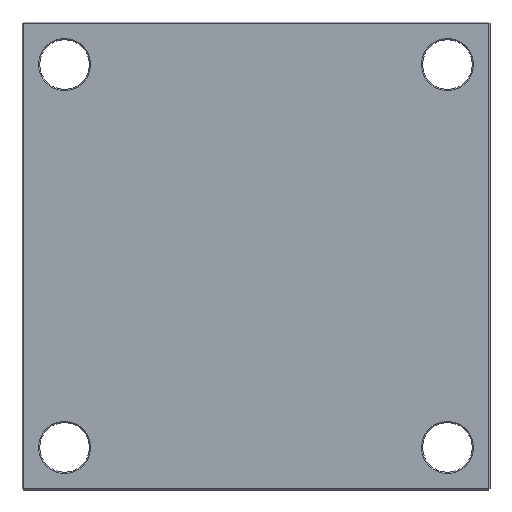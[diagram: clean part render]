
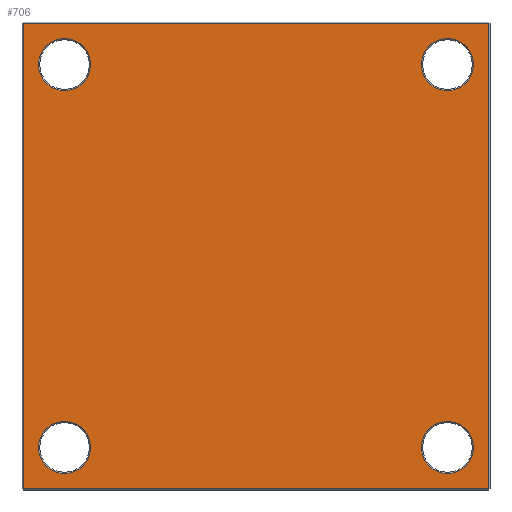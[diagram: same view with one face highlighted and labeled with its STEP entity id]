
A CAD part, front view. The second image highlights one B-rep face of the part: STEP entity #706.
In plain terms, the highlighted planar face has unit normal (0, -1, 0).
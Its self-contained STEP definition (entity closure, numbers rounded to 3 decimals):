
#17 = ORIENTED_EDGE ( 'NONE', *, *, #1601, .T. ) ;
#19 = ORIENTED_EDGE ( 'NONE', *, *, #1609, .T. ) ;
#28 = EDGE_CURVE ( 'NONE', #832, #121, #1839, .T. ) ;
#35 = VECTOR ( 'NONE', #1489, 1000. ) ;
#48 = VERTEX_POINT ( 'NONE', #1393 ) ;
#57 = CARTESIAN_POINT ( 'NONE',  ( 162., 0., 184. ) ) ;
#81 = CARTESIAN_POINT ( 'NONE',  ( -162., 0., 140. ) ) ;
#121 = VERTEX_POINT ( 'NONE', #620 ) ;
#130 = ORIENTED_EDGE ( 'NONE', *, *, #1135, .T. ) ;
#150 = EDGE_LOOP ( 'NONE', ( #184, #177 ) ) ;
#152 = CIRCLE ( 'NONE', #1070, 22. ) ;
#159 = ORIENTED_EDGE ( 'NONE', *, *, #1624, .T. ) ;
#161 = VERTEX_POINT ( 'NONE', #308 ) ;
#177 = ORIENTED_EDGE ( 'NONE', *, *, #1471, .T. ) ;
#184 = ORIENTED_EDGE ( 'NONE', *, *, #28, .T. ) ;
#192 = CARTESIAN_POINT ( 'NONE',  ( 162., 0., -162. ) ) ;
#197 = VECTOR ( 'NONE', #490, 1000. ) ;
#209 = ORIENTED_EDGE ( 'NONE', *, *, #645, .T. ) ;
#229 = AXIS2_PLACEMENT_3D ( 'NONE', #1816, #1727, #1735 ) ;
#241 = DIRECTION ( 'NONE',  ( 0., 1., 0. ) ) ;
#259 = DIRECTION ( 'NONE',  ( 0., 0., 1. ) ) ;
#308 = CARTESIAN_POINT ( 'NONE',  ( 197., 0., 197. ) ) ;
#338 = VERTEX_POINT ( 'NONE', #728 ) ;
#341 = AXIS2_PLACEMENT_3D ( 'NONE', #1245, #1239, #1205 ) ;
#401 = FACE_BOUND ( 'NONE', #1478, .T. ) ;
#416 = AXIS2_PLACEMENT_3D ( 'NONE', #576, #577, #580 ) ;
#441 = CIRCLE ( 'NONE', #341, 22. ) ;
#488 = LINE ( 'NONE', #883, #897 ) ;
#490 = DIRECTION ( 'NONE',  ( 0., 0., 1. ) ) ;
#500 = CARTESIAN_POINT ( 'NONE',  ( 197., 0., 0. ) ) ;
#535 = LINE ( 'NONE', #1338, #35 ) ;
#569 = CIRCLE ( 'NONE', #766, 22. ) ;
#576 = CARTESIAN_POINT ( 'NONE',  ( 162., 0., -162. ) ) ;
#577 = DIRECTION ( 'NONE',  ( 0., 1., 0. ) ) ;
#580 = DIRECTION ( 'NONE',  ( 0., 0., 1. ) ) ;
#588 = VERTEX_POINT ( 'NONE', #1300 ) ;
#596 = CIRCLE ( 'NONE', #416, 22. ) ;
#620 = CARTESIAN_POINT ( 'NONE',  ( -162., 0., 184. ) ) ;
#645 = EDGE_CURVE ( 'NONE', #1050, #588, #152, .T. ) ;
#674 = CARTESIAN_POINT ( 'NONE',  ( 197., 0., -197. ) ) ;
#706 = ADVANCED_FACE ( 'NONE', ( #401, #1633, #2120, #1188, #2072 ), #1126, .F. ) ;
#719 = ORIENTED_EDGE ( 'NONE', *, *, #1424, .T. ) ;
#728 = CARTESIAN_POINT ( 'NONE',  ( 162., 0., -140. ) ) ;
#766 = AXIS2_PLACEMENT_3D ( 'NONE', #192, #241, #259 ) ;
#832 = VERTEX_POINT ( 'NONE', #81 ) ;
#863 = CARTESIAN_POINT ( 'NONE',  ( -162., 0., 162. ) ) ;
#879 = AXIS2_PLACEMENT_3D ( 'NONE', #1130, #1765, #1123 ) ;
#883 = CARTESIAN_POINT ( 'NONE',  ( 0., 0., -197. ) ) ;
#897 = VECTOR ( 'NONE', #1015, 1000. ) ;
#911 = VERTEX_POINT ( 'NONE', #2144 ) ;
#915 = EDGE_CURVE ( 'NONE', #1422, #338, #569, .T. ) ;
#921 = AXIS2_PLACEMENT_3D ( 'NONE', #2009, #2015, #2038 ) ;
#970 = CARTESIAN_POINT ( 'NONE',  ( -162., 0., -140. ) ) ;
#980 = CIRCLE ( 'NONE', #921, 22. ) ;
#1015 = DIRECTION ( 'NONE',  ( 1., 0., 0. ) ) ;
#1050 = VERTEX_POINT ( 'NONE', #57 ) ;
#1070 = AXIS2_PLACEMENT_3D ( 'NONE', #1747, #1756, #1764 ) ;
#1123 = DIRECTION ( 'NONE',  ( 0., 0., 1. ) ) ;
#1126 = PLANE ( 'NONE',  #879 ) ;
#1130 = CARTESIAN_POINT ( 'NONE',  ( 0., 0., 0. ) ) ;
#1135 = EDGE_CURVE ( 'NONE', #1550, #161, #1498, .T. ) ;
#1140 = EDGE_CURVE ( 'NONE', #338, #1422, #596, .T. ) ;
#1150 = CARTESIAN_POINT ( 'NONE',  ( -197., 0., 197. ) ) ;
#1169 = DIRECTION ( 'NONE',  ( -1., 0., 0. ) ) ;
#1184 = AXIS2_PLACEMENT_3D ( 'NONE', #863, #1704, #1680 ) ;
#1188 = FACE_BOUND ( 'NONE', #150, .T. ) ;
#1197 = DIRECTION ( 'NONE',  ( 0., 0., 1. ) ) ;
#1203 = DIRECTION ( 'NONE',  ( 0., 1., 0. ) ) ;
#1205 = DIRECTION ( 'NONE',  ( 0., 0., 1. ) ) ;
#1239 = DIRECTION ( 'NONE',  ( 0., 1., 0. ) ) ;
#1240 = VERTEX_POINT ( 'NONE', #1150 ) ;
#1245 = CARTESIAN_POINT ( 'NONE',  ( -162., 0., -162. ) ) ;
#1293 = EDGE_CURVE ( 'NONE', #588, #1050, #1576, .T. ) ;
#1300 = CARTESIAN_POINT ( 'NONE',  ( 162., 0., 140. ) ) ;
#1308 = EDGE_LOOP ( 'NONE', ( #1975, #209 ) ) ;
#1327 = CARTESIAN_POINT ( 'NONE',  ( -162., 0., 162. ) ) ;
#1338 = CARTESIAN_POINT ( 'NONE',  ( -197., 0., 0. ) ) ;
#1393 = CARTESIAN_POINT ( 'NONE',  ( -197., 0., -197. ) ) ;
#1404 = LINE ( 'NONE', #1414, #1827 ) ;
#1414 = CARTESIAN_POINT ( 'NONE',  ( 0., 0., 197. ) ) ;
#1422 = VERTEX_POINT ( 'NONE', #1899 ) ;
#1424 = EDGE_CURVE ( 'NONE', #911, #2055, #980, .T. ) ;
#1471 = EDGE_CURVE ( 'NONE', #121, #832, #2135, .T. ) ;
#1478 = EDGE_LOOP ( 'NONE', ( #719, #1536 ) ) ;
#1489 = DIRECTION ( 'NONE',  ( 0., 0., -1. ) ) ;
#1498 = LINE ( 'NONE', #500, #197 ) ;
#1536 = ORIENTED_EDGE ( 'NONE', *, *, #1939, .T. ) ;
#1550 = VERTEX_POINT ( 'NONE', #674 ) ;
#1576 = CIRCLE ( 'NONE', #229, 22. ) ;
#1601 = EDGE_CURVE ( 'NONE', #161, #1240, #1404, .T. ) ;
#1609 = EDGE_CURVE ( 'NONE', #1240, #48, #535, .T. ) ;
#1624 = EDGE_CURVE ( 'NONE', #48, #1550, #488, .T. ) ;
#1633 = FACE_BOUND ( 'NONE', #2030, .T. ) ;
#1680 = DIRECTION ( 'NONE',  ( 0., 0., 1. ) ) ;
#1704 = DIRECTION ( 'NONE',  ( 0., 1., 0. ) ) ;
#1705 = AXIS2_PLACEMENT_3D ( 'NONE', #1327, #1203, #1197 ) ;
#1727 = DIRECTION ( 'NONE',  ( 0., 1., 0. ) ) ;
#1735 = DIRECTION ( 'NONE',  ( 0., 0., 1. ) ) ;
#1747 = CARTESIAN_POINT ( 'NONE',  ( 162., 0., 162. ) ) ;
#1756 = DIRECTION ( 'NONE',  ( 0., 1., 0. ) ) ;
#1764 = DIRECTION ( 'NONE',  ( 0., 0., 1. ) ) ;
#1765 = DIRECTION ( 'NONE',  ( 0., 1., 0. ) ) ;
#1816 = CARTESIAN_POINT ( 'NONE',  ( 162., 0., 162. ) ) ;
#1827 = VECTOR ( 'NONE', #1169, 1000. ) ;
#1839 = CIRCLE ( 'NONE', #1705, 22. ) ;
#1869 = ORIENTED_EDGE ( 'NONE', *, *, #915, .T. ) ;
#1899 = CARTESIAN_POINT ( 'NONE',  ( 162., 0., -184. ) ) ;
#1939 = EDGE_CURVE ( 'NONE', #2055, #911, #441, .T. ) ;
#1975 = ORIENTED_EDGE ( 'NONE', *, *, #1293, .T. ) ;
#1999 = ORIENTED_EDGE ( 'NONE', *, *, #1140, .T. ) ;
#2009 = CARTESIAN_POINT ( 'NONE',  ( -162., 0., -162. ) ) ;
#2015 = DIRECTION ( 'NONE',  ( 0., 1., 0. ) ) ;
#2030 = EDGE_LOOP ( 'NONE', ( #1869, #1999 ) ) ;
#2038 = DIRECTION ( 'NONE',  ( 0., 0., 1. ) ) ;
#2055 = VERTEX_POINT ( 'NONE', #970 ) ;
#2072 = FACE_OUTER_BOUND ( 'NONE', #2101, .T. ) ;
#2101 = EDGE_LOOP ( 'NONE', ( #130, #17, #19, #159 ) ) ;
#2120 = FACE_BOUND ( 'NONE', #1308, .T. ) ;
#2135 = CIRCLE ( 'NONE', #1184, 22. ) ;
#2144 = CARTESIAN_POINT ( 'NONE',  ( -162., 0., -184. ) ) ;
